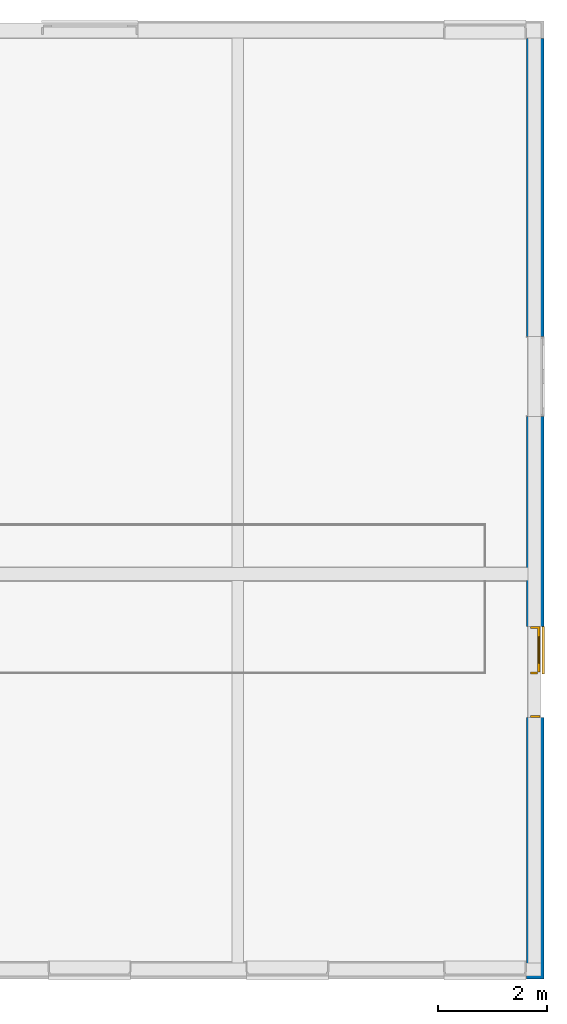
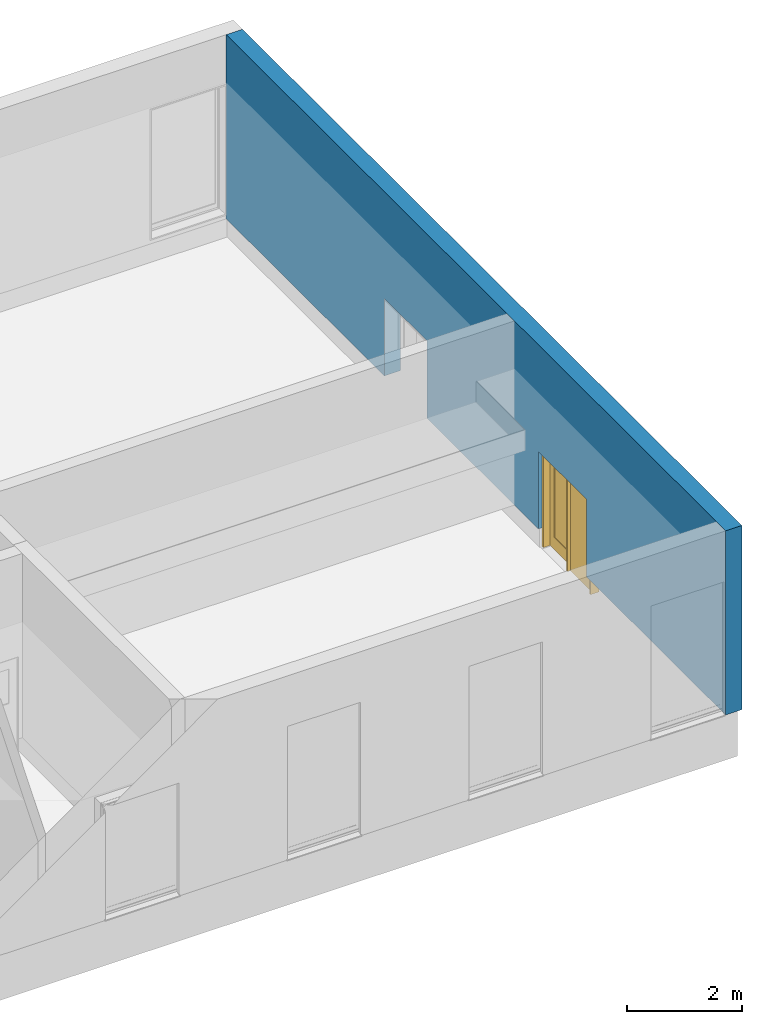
# One storey, part 18 of 22: 1 door, 1 wall, 3 openings.
"""IFC4X3 building model written with IfcOpenShell, lengths in millimetres."""

from ifc_helpers import new_model, entity, si_unit, converted_unit, derived_unit, direction, frame, frame_2d, origin, origin_2d_with_axis, place, context, subcontext, project, spatial, polyline, rectangle, outline, extrude, faceted_brep, source, transform, mapped, material, layer, layer_set, constituent, constituent_set, type_object, type_shapes, element, fill, save


model = new_model("IFC4X3")

# Units and contexts
model_context = context("Model", 3, precision=0.01, world=origin(), true_north=direction((6.12303176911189e-17, 1.0)))
body_context = subcontext(model_context, "Body", "Model", "MODEL_VIEW")
ifc_project = project(units=[si_unit("LENGTHUNIT", "METRE", prefix="MILLI"), si_unit("AREAUNIT", "SQUARE_METRE"), si_unit("VOLUMEUNIT", "CUBIC_METRE"), converted_unit("PLANEANGLEUNIT", "DEGREE", entity("IfcPlaneAngleMeasure", 0.0174532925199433), si_unit("PLANEANGLEUNIT", "RADIAN"), dimensions=[0, 0, 0, 0, 0, 0, 0]), si_unit("MASSUNIT", "GRAM", prefix="KILO"), derived_unit("MASSDENSITYUNIT", [(si_unit("MASSUNIT", "GRAM", prefix="KILO"), 1), (si_unit("LENGTHUNIT", "METRE"), -3)]), derived_unit("IONCONCENTRATIONUNIT", [(si_unit("MASSUNIT", "GRAM", prefix="KILO"), 1), (si_unit("LENGTHUNIT", "METRE"), -3)]), derived_unit("MOMENTOFINERTIAUNIT", [(si_unit("LENGTHUNIT", "METRE"), 4)]), si_unit("TIMEUNIT", "SECOND"), si_unit("FREQUENCYUNIT", "HERTZ"), si_unit("THERMODYNAMICTEMPERATUREUNIT", "DEGREE_CELSIUS"), derived_unit("THERMALTRANSMITTANCEUNIT", [(si_unit("MASSUNIT", "GRAM", prefix="KILO"), 1), (si_unit("THERMODYNAMICTEMPERATUREUNIT", "KELVIN"), -1), (si_unit("TIMEUNIT", "SECOND"), -3)]), derived_unit("THERMALCONDUCTANCEUNIT", [(si_unit("MASSUNIT", "GRAM", prefix="KILO"), 1), (si_unit("THERMODYNAMICTEMPERATUREUNIT", "KELVIN"), -1), (si_unit("TIMEUNIT", "SECOND"), -3), (si_unit("LENGTHUNIT", "METRE"), 1)]), derived_unit("VOLUMETRICFLOWRATEUNIT", [(si_unit("LENGTHUNIT", "METRE", prefix="DECI"), 3), (si_unit("TIMEUNIT", "SECOND"), -1)]), derived_unit("MASSFLOWRATEUNIT", [(si_unit("MASSUNIT", "GRAM", prefix="KILO"), 1), (si_unit("TIMEUNIT", "SECOND"), -1)]), derived_unit("ROTATIONALFREQUENCYUNIT", [(si_unit("TIMEUNIT", "SECOND"), -1)]), si_unit("ELECTRICCURRENTUNIT", "AMPERE"), si_unit("ELECTRICVOLTAGEUNIT", "VOLT"), si_unit("POWERUNIT", "WATT"), si_unit("FORCEUNIT", "NEWTON", prefix="KILO"), si_unit("ILLUMINANCEUNIT", "LUX"), si_unit("LUMINOUSFLUXUNIT", "LUMEN"), si_unit("LUMINOUSINTENSITYUNIT", "CANDELA"), si_unit("ENERGYUNIT", "JOULE"), derived_unit("USERDEFINED", [(si_unit("MASSUNIT", "GRAM", prefix="KILO"), -1), (si_unit("LENGTHUNIT", "METRE"), -2), (si_unit("TIMEUNIT", "SECOND"), 3), (si_unit("LUMINOUSFLUXUNIT", "LUMEN"), 1)]), derived_unit("USERDEFINED", [(si_unit("MASSUNIT", "GRAM", prefix="KILO"), 1), (si_unit("TIMEUNIT", "SECOND"), -3), (si_unit("LENGTHUNIT", "METRE"), 3), (si_unit("ELECTRICCURRENTUNIT", "AMPERE"), -2)]), derived_unit("SOUNDPOWERUNIT", [(si_unit("MASSUNIT", "GRAM", prefix="KILO"), 1), (si_unit("TIMEUNIT", "SECOND"), -3), (si_unit("LENGTHUNIT", "METRE"), 2)]), derived_unit("SOUNDPRESSUREUNIT", [(si_unit("MASSUNIT", "GRAM", prefix="KILO"), 1), (si_unit("LENGTHUNIT", "METRE"), -1), (si_unit("TIMEUNIT", "SECOND"), -2)]), derived_unit("LINEARVELOCITYUNIT", [(si_unit("LENGTHUNIT", "METRE"), 1), (si_unit("TIMEUNIT", "SECOND"), -1)]), si_unit("PRESSUREUNIT", "PASCAL"), derived_unit("USERDEFINED", [(si_unit("MASSUNIT", "GRAM", prefix="KILO"), 1), (si_unit("LENGTHUNIT", "METRE"), -2), (si_unit("TIMEUNIT", "SECOND"), -2)]), derived_unit("LINEARFORCEUNIT", [(si_unit("MASSUNIT", "GRAM", prefix="KILO"), 1), (si_unit("TIMEUNIT", "SECOND"), -2)]), derived_unit("PLANARFORCEUNIT", [(si_unit("MASSUNIT", "GRAM", prefix="KILO"), 1), (si_unit("LENGTHUNIT", "METRE"), -1), (si_unit("TIMEUNIT", "SECOND"), -2)]), derived_unit("SPECIFICHEATCAPACITYUNIT", [(si_unit("THERMODYNAMICTEMPERATUREUNIT", "KELVIN"), -1), (si_unit("LENGTHUNIT", "METRE"), 2), (si_unit("TIMEUNIT", "SECOND"), -2)]), derived_unit("HEATFLUXDENSITYUNIT", [(si_unit("MASSUNIT", "GRAM", prefix="KILO"), 1), (si_unit("TIMEUNIT", "SECOND"), -3)]), derived_unit("HEATINGVALUEUNIT", [(si_unit("LENGTHUNIT", "METRE"), 2), (si_unit("TIMEUNIT", "SECOND"), -2)]), derived_unit("VAPORPERMEABILITYUNIT", [(si_unit("LENGTHUNIT", "METRE"), -1), (si_unit("TIMEUNIT", "SECOND"), 1)]), derived_unit("DYNAMICVISCOSITYUNIT", [(si_unit("MASSUNIT", "GRAM", prefix="KILO"), 1), (si_unit("TIMEUNIT", "SECOND"), -1), (si_unit("LENGTHUNIT", "METRE"), -1)]), derived_unit("THERMALEXPANSIONCOEFFICIENTUNIT", [(si_unit("THERMODYNAMICTEMPERATUREUNIT", "KELVIN"), -1)]), derived_unit("MODULUSOFELASTICITYUNIT", [(si_unit("MASSUNIT", "GRAM", prefix="KILO"), 1), (si_unit("LENGTHUNIT", "METRE"), -1), (si_unit("TIMEUNIT", "SECOND"), -2)]), derived_unit("ISOTHERMALMOISTURECAPACITYUNIT", [(si_unit("MASSUNIT", "GRAM", prefix="KILO"), -1), (si_unit("LENGTHUNIT", "METRE"), 3)]), derived_unit("MOISTUREDIFFUSIVITYUNIT", [(si_unit("TIMEUNIT", "SECOND"), -1), (si_unit("LENGTHUNIT", "METRE"), 2)]), derived_unit("AREADENSITYUNIT", [(si_unit("MASSUNIT", "GRAM", prefix="KILO"), 1), (si_unit("LENGTHUNIT", "METRE"), 2)]), derived_unit("MASSPERLENGTHUNIT", [(si_unit("MASSUNIT", "GRAM", prefix="KILO"), 1), (si_unit("LENGTHUNIT", "METRE"), -1)]), derived_unit("THERMALRESISTANCEUNIT", [(si_unit("MASSUNIT", "GRAM", prefix="KILO"), -1), (si_unit("TIMEUNIT", "SECOND"), 3), (si_unit("THERMODYNAMICTEMPERATUREUNIT", "KELVIN"), 1)]), derived_unit("ACCELERATIONUNIT", [(si_unit("LENGTHUNIT", "METRE"), 1), (si_unit("TIMEUNIT", "SECOND"), -2)]), derived_unit("ANGULARVELOCITYUNIT", [(si_unit("TIMEUNIT", "SECOND"), -1), (si_unit("PLANEANGLEUNIT", "RADIAN"), 1)]), derived_unit("LINEARSTIFFNESSUNIT", [(si_unit("MASSUNIT", "GRAM", prefix="KILO"), 1), (si_unit("TIMEUNIT", "SECOND"), -2)]), derived_unit("WARPINGCONSTANTUNIT", [(si_unit("LENGTHUNIT", "METRE"), 6)]), derived_unit("LINEARMOMENTUNIT", [(si_unit("MASSUNIT", "GRAM", prefix="KILO"), 1), (si_unit("LENGTHUNIT", "METRE"), 1), (si_unit("TIMEUNIT", "SECOND"), -2)]), derived_unit("TORQUEUNIT", [(si_unit("MASSUNIT", "GRAM", prefix="KILO"), 1), (si_unit("LENGTHUNIT", "METRE"), 2), (si_unit("TIMEUNIT", "SECOND"), -2)])], contexts=[model_context])

# Site, building, storey
site_placement = place(None, origin())
site = spatial("IfcSite", under=ifc_project, at=site_placement, Name="Default", CompositionType="ELEMENT")
building_placement = place(site_placement, origin())
building = spatial("IfcBuilding", under=site, at=building_placement, Name="事務所ビル", CompositionType="ELEMENT")
storey_placement = place(building_placement, origin())
storey = spatial("IfcBuildingStorey", under=building, at=storey_placement, Name="1FL", CompositionType="ELEMENT", Elevation=0.0)

# Wall, openings, door
ifc_material_1 = material(Name="<Unnamed>")
ifc_layer_1 = layer(ifc_material_1, 46.0, Name="Layer")
ifc_material_2 = material(Name="合板", Category="一般")
ifc_layer_2 = layer(ifc_material_2, 12.0, Name="合板", Category="一般")
ifc_material_3 = material(Name="天然木材", Category="一般")
ifc_layer_3 = layer(ifc_material_3, 240.0, Name="天然木材", Category="一般")
ifc_layer_4 = layer(ifc_material_2, 12.0, Name="合板", Category="一般")
ifc_material_4 = material(Name="せっこうボード", Category="一般")
ifc_layer_5 = layer(ifc_material_4, 15.0, Name="せっこうボード", Category="一般")
ifc_layer_set = layer_set([ifc_layer_1, ifc_layer_2, ifc_layer_3, ifc_layer_4, ifc_layer_5], Name="標準壁:外装材46_構造用合板12_木240_構造用合板12_GB-R15")
wall_type = type_object("IfcWallType", Name="標準壁:外装材46_構造用合板12_木240_構", PredefinedType="STANDARD", material=ifc_layer_set)
wall_placement = place(storey_placement, frame((49155.5, -178.0, 400.0), z_axis=(0.0, 0.0, 1.0), x_axis=(0.0, 1.0, 0.0)))
wall = element("IfcWall", 1, at=wall_placement, inside=storey, type_object=wall_type, material=ifc_layer_set, Name="標準壁:外装材46_構造用合板12_木240_構造用合板12_GB-R15", ObjectType="標準壁:外装材46_構造用合板12_木240_構造用合板12_GB-R15", PredefinedType="NOTDEFINED", context=body_context, shape_type="SweptSolid", body=[
    extrude(rectangle(XDim=17321.0000000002, YDim=325.000000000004, at=frame_2d((8660.50000000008, -5.24380538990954e-12), x_axis=(1.0, 0.0))), origin(), (0.0, 0.0, 1.0), 3900.0),
])
opening_1_placement = place(wall_placement, frame((178.0, 49155.5, 120.0)))
element("IfcOpeningElement", 2, at=opening_1_placement, cuts=wall, Name="標準壁:外装材46_構造用合板12_木240_構造用合板12_GB-R15", PredefinedType="OPENING", context=body_context, shape_type="Brep", body=[
    faceted_brep([(157.0, -48995.0, -35.0), (157.0, -48995.0, 2735.0), (-48.0, -48995.0, 2735.0), (-48.0, -48995.0, -35.0), (157.0, -47465.0, -35.0), (-48.0, -47465.0, -35.0), (-48.0, -47465.0, 2735.0), (157.0, -47465.0, 2735.0), (-48.0, -48985.0, -35.0), (-48.0, -47475.0, -35.0), (-48.0, -47475.0, 2730.0), (-48.0, -48985.0, 2730.0), (-118.0, -48985.0, 2730.0), (-118.0, -48985.0, -115.769230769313), (-48.0, -48985.0, -105.0), (-48.0, -47475.0, -105.0), (-118.0, -47475.0, -115.769230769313), (-118.0, -47475.0, 2730.0), (-118.0, -48965.0, -115.769230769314), (-178.0, -48965.0, -125.0), (-178.0, -47495.0, -125.0), (-118.0, -47495.0, -115.769230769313), (-118.0, -47495.0, 2710.0), (-118.0, -48965.0, 2710.0), (-178.0, -48965.0, 2710.0), (-178.0, -47495.0, 2710.0)], [[[0, 1, 2, 3]], [[4, 5, 6, 7]], [[0, 3, 8, 9, 5, 4]], [[3, 2, 6, 5, 9, 10, 11, 8]], [[2, 1, 7, 6]], [[1, 0, 4, 7]], [[11, 12, 13, 14, 8]], [[15, 16, 17, 10, 9]], [[14, 13, 18, 19, 20, 21, 16, 15]], [[13, 12, 17, 16, 21, 22, 23, 18]], [[12, 11, 10, 17]], [[14, 15, 9, 8]], [[23, 24, 19, 18]], [[21, 20, 25, 22]], [[19, 24, 25, 20]], [[24, 23, 22, 25]]]),
])
opening_2_placement = place(wall_placement, frame((6498.0, 162.500000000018, -400.0)))
opening_2 = element("IfcOpeningElement", 3, at=opening_2_placement, cuts=wall, Name="自動ドア - 片引き - 框:自動ドア - 片引き - 框:1", PredefinedType="OPENING", context=body_context, shape_type="SweptSolid", body=[
    extrude(rectangle(XDim=2040.00000000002, YDim=1680.0, at=frame_2d((1020.00000000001, 839.999999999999), x_axis=(1.0, 0.0))), frame((0.0, 0.0, 0.0), z_axis=(0.0, -1.0, 0.0), x_axis=(0.0, 0.0, 1.0)), (0.0, 0.0, 1.0), 325.0),
])
opening_3_placement = place(wall_placement, frame((11838.0, 162.500000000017, -415.0)))
element("IfcOpeningElement", 4, at=opening_3_placement, cuts=wall, Name="鋼製_大枠_両開き_框:1400x2000:1", PredefinedType="OPENING", context=body_context, shape_type="SweptSolid", body=[
    extrude(rectangle(XDim=2055.00000000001, YDim=1480.0, at=frame_2d((1027.5, 739.999999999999), x_axis=(-1.0, 0.0))), frame((0.0, 0.0, 0.0), z_axis=(0.0, -1.0, 0.0), x_axis=(0.0, 0.0, 1.0)), (0.0, 0.0, 1.0), 325.0),
])
ifc_constituent_1 = constituent(ifc_material_1, Name="<Unnamed>")
ifc_material_5 = material(Name="ガラス", Category="ガラス")
ifc_constituent_2 = constituent(ifc_material_5, Name="ガラス", Category="ガラス")
ifc_constituent_set_1 = constituent_set(constituents=[ifc_constituent_1, ifc_constituent_2])
ifc_constituent_3 = constituent(ifc_material_1, Name="パネル")
ifc_constituent_4 = constituent(ifc_material_5, Name="ガラス", Category="ガラス")
ifc_constituent_5 = constituent(ifc_material_1, Name="フレーム/マリオン")
ifc_constituent_set_2 = constituent_set(constituents=[ifc_constituent_3, ifc_constituent_4, ifc_constituent_5])
door_type = type_object("IfcDoorType", Name="自動ドア - 片引き - 框:自動ドア - 片引き - 框", OperationType="NOTDEFINED", ParameterTakesPrecedence=False, PredefinedType="DOOR", material=ifc_constituent_set_2)
shared_shape = source(origin(), body_context, "Body", "SweptSolid", [
    extrude(rectangle(XDim=40.0000000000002, YDim=124.999999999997, at=origin_2d_with_axis()), frame((1660.0, 120.0, 0.0)), (0.0, 0.0, 1.0), 2000.0),
    extrude(rectangle(XDim=760.000000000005, YDim=4.0, at=frame_2d((0.0, 1.99840144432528e-15), x_axis=(1.0, 0.0))), frame((2060.0, 120.0, 0.0), z_axis=(0.0, 0.0, 1.0), x_axis=(-1.0, 0.0, 0.0)), (0.0, 0.0, 1.0), 99.9999999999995),
    extrude(rectangle(XDim=760.000000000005, YDim=4.0, at=frame_2d((0.0, 1.99840144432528e-15), x_axis=(1.0, 0.0))), frame((2060.0, 120.0, 100.0), z_axis=(0.0, 0.0, 1.0), x_axis=(-1.0, 0.0, 0.0)), (0.0, 0.0, 1.0), 1900.0),
    extrude(outline(polyline([(800.0, -1010.0), (840.0, -1010.0), (840.0, 1030.0), (-840.0, 1030.0), (-840.0, -1010.0), (-800.0, -1010.0), (-800.0, 990.0), (800.0, 990.0), (800.0, -1010.0)])), frame((1640.0, 227.499999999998, 1010.0), z_axis=(0.0, -1.0, 0.0), x_axis=(1.0, 0.0, 0.0)), (0.0, 0.0, 1.0), 169.999999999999),
    extrude(rectangle(XDim=500.0, YDim=4.00000000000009, at=frame_2d((0.0, 4.21884749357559e-15), x_axis=(1.0, 0.0))), frame((1240.0, 207.499999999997, 260.0), z_axis=(0.0, 0.0, 1.0), x_axis=(-1.0, 0.0, 0.0)), (0.0, 0.0, 1.0), 1590.00000000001),
    extrude(outline(polyline([(-400.0, -995.0), (400.0, -995.0), (400.0, 995.0), (-400.0, 995.0), (-400.0, -995.0)]), holes=[polyline([(-250.0, 845.0), (250.0, 845.0), (250.0, -745.0), (-250.0, -745.0), (-250.0, 845.0)])]), frame((1240.0, 227.499999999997, 1005.0), z_axis=(0.0, -1.0, 0.0), x_axis=(1.0, 0.0, 0.0)), (0.0, 0.0, 1.0), 40.0),
    extrude(rectangle(XDim=45.0000000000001, YDim=880.0, at=origin_2d_with_axis()), frame((1240.0, 292.500000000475, -15.0), z_axis=(0.0, 0.0, 1.0), x_axis=(0.0, -1.0, 0.0)), (0.0, 0.0, 1.0), 20.0),
])
type_shapes(door_type, [shared_shape])
door_placement = place(opening_2_placement, frame((800.0, -20.0, 0.0), z_axis=(0.0, 0.0, 1.0), x_axis=(-1.0, 0.0, 0.0)))
door = element("IfcDoor", 5, at=door_placement, inside=storey, type_object=door_type, material=ifc_constituent_set_1, Name="自動ドア - 片引き - 框:自動ドア - 片引き - 框", ObjectType="自動ドア - 片引き - 框:自動ドア - 片引き - 框", OperationType="NOTDEFINED", OverallHeight=2040.00000000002, OverallWidth=1680.0, PredefinedType="DOOR", context=body_context, shape_type="MappedRepresentation", body=[
    mapped(shared_shape, transform((0.0, 0.0, 0.0), scale=1.0)),
])
fill(opening_2, door)

save(model, "model.ifc")
